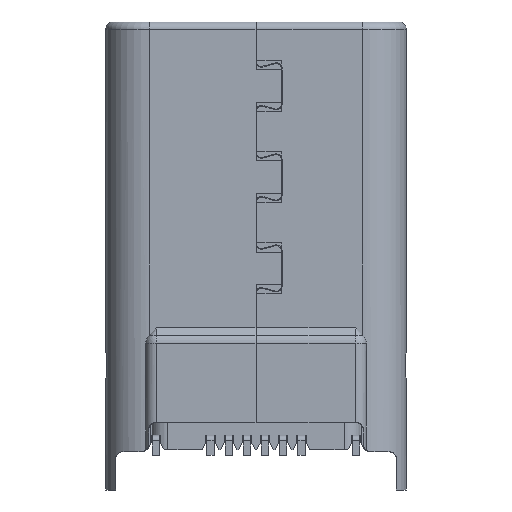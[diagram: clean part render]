
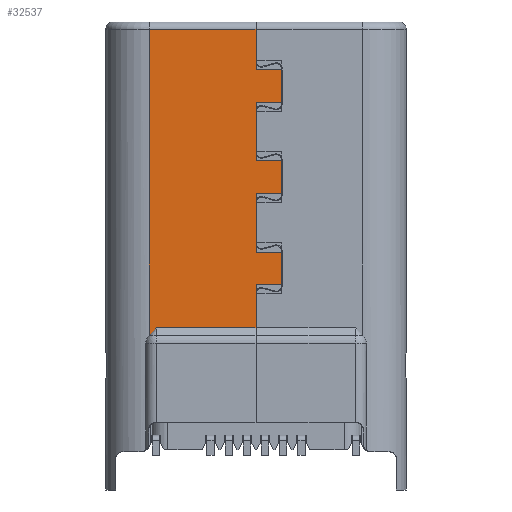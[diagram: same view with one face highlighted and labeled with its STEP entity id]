
A CAD part, front view. The second image highlights one B-rep face of the part: STEP entity #32537.
In plain terms, the highlighted planar face has unit normal (0, -1, 0).
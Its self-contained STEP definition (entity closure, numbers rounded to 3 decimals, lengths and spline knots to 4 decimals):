
#5029=DIRECTION('',(0.,0.,-1.));
#5030=VECTOR('',#5029,0.9);
#5031=CARTESIAN_POINT('',(0.7,-1.2,9.4346));
#5032=LINE('',#5031,#5030);
#5071=DIRECTION('',(0.,0.,-1.));
#5072=VECTOR('',#5071,1.6);
#5073=CARTESIAN_POINT('',(0.,-1.2,8.5346));
#5074=LINE('',#5073,#5072);
#5125=DIRECTION('',(0.,0.,-1.));
#5126=VECTOR('',#5125,0.9);
#5127=CARTESIAN_POINT('',(0.7,-1.2,6.9346));
#5128=LINE('',#5127,#5126);
#5163=DIRECTION('',(0.,0.,-1.));
#5164=VECTOR('',#5163,1.6);
#5165=CARTESIAN_POINT('',(0.,-1.2,6.0346));
#5166=LINE('',#5165,#5164);
#5217=DIRECTION('',(0.,0.,-1.));
#5218=VECTOR('',#5217,0.9);
#5219=CARTESIAN_POINT('',(0.7,-1.2,4.4346));
#5220=LINE('',#5219,#5218);
#5285=DIRECTION('',(0.,0.,-1.));
#5286=VECTOR('',#5285,1.1154);
#5287=CARTESIAN_POINT('',(0.,-1.2,10.55));
#5288=LINE('',#5287,#5286);
#5289=DIRECTION('',(0.,0.,-1.));
#5290=VECTOR('',#5289,1.1846);
#5291=CARTESIAN_POINT('',(0.,-1.2,3.5346));
#5292=LINE('',#5291,#5290);
#5293=DIRECTION('',(-0.707,0.,-0.707));
#5294=VECTOR('',#5293,0.2828);
#5295=CARTESIAN_POINT('',(-2.725,-1.2,2.35));
#5296=LINE('',#5295,#5294);
#5311=DIRECTION('',(1.,0.,0.));
#5312=VECTOR('',#5311,0.7);
#5313=CARTESIAN_POINT('',(0.,-1.2,9.4346));
#5314=LINE('',#5313,#5312);
#5323=DIRECTION('',(-1.,0.,0.));
#5324=VECTOR('',#5323,2.925);
#5325=CARTESIAN_POINT('',(0.,-1.2,10.55));
#5326=LINE('',#5325,#5324);
#5566=DIRECTION('',(0.,0.,-1.));
#5567=VECTOR('',#5566,8.4);
#5568=CARTESIAN_POINT('',(-2.925,-1.2,10.55));
#5569=LINE('',#5568,#5567);
#5976=DIRECTION('',(1.,0.,0.));
#5977=VECTOR('',#5976,2.725);
#5978=CARTESIAN_POINT('',(-2.725,-1.2,2.35));
#5979=LINE('',#5978,#5977);
#19253=DIRECTION('',(-1.,0.,0.));
#19254=VECTOR('',#19253,0.7);
#19255=CARTESIAN_POINT('',(0.7,-1.2,8.5346));
#19256=LINE('',#19255,#19254);
#19269=DIRECTION('',(1.,0.,0.));
#19270=VECTOR('',#19269,0.7);
#19271=CARTESIAN_POINT('',(0.,-1.2,6.9346));
#19272=LINE('',#19271,#19270);
#19285=DIRECTION('',(-1.,0.,0.));
#19286=VECTOR('',#19285,0.7);
#19287=CARTESIAN_POINT('',(0.7,-1.2,6.0346));
#19288=LINE('',#19287,#19286);
#19301=DIRECTION('',(1.,0.,0.));
#19302=VECTOR('',#19301,0.7);
#19303=CARTESIAN_POINT('',(0.,-1.2,4.4346));
#19304=LINE('',#19303,#19302);
#19317=DIRECTION('',(-1.,0.,0.));
#19318=VECTOR('',#19317,0.7);
#19319=CARTESIAN_POINT('',(0.7,-1.2,3.5346));
#19320=LINE('',#19319,#19318);
#23079=CARTESIAN_POINT('',(-2.925,-1.2,10.55));
#23080=VERTEX_POINT('',#23079);
#23085=CARTESIAN_POINT('',(0.,-1.2,10.55));
#23086=VERTEX_POINT('',#23085);
#23093=CARTESIAN_POINT('',(0.,-1.2,9.4346));
#23094=VERTEX_POINT('',#23093);
#23419=CARTESIAN_POINT('',(-2.925,-1.2,2.15));
#23420=VERTEX_POINT('',#23419);
#23498=CARTESIAN_POINT('',(0.,-1.2,3.5346));
#23499=CARTESIAN_POINT('',(0.,-1.2,2.35));
#23500=VERTEX_POINT('',#23498);
#23501=VERTEX_POINT('',#23499);
#23516=CARTESIAN_POINT('',(0.7,-1.2,9.4346));
#23517=VERTEX_POINT('',#23516);
#23518=CARTESIAN_POINT('',(0.7,-1.2,8.5346));
#23519=VERTEX_POINT('',#23518);
#23520=CARTESIAN_POINT('',(0.,-1.2,8.5346));
#23521=VERTEX_POINT('',#23520);
#23522=CARTESIAN_POINT('',(0.,-1.2,6.9346));
#23523=VERTEX_POINT('',#23522);
#23524=CARTESIAN_POINT('',(0.7,-1.2,6.9346));
#23525=VERTEX_POINT('',#23524);
#23526=CARTESIAN_POINT('',(0.7,-1.2,6.0346));
#23527=VERTEX_POINT('',#23526);
#23528=CARTESIAN_POINT('',(0.,-1.2,6.0346));
#23529=VERTEX_POINT('',#23528);
#23530=CARTESIAN_POINT('',(0.,-1.2,4.4346));
#23531=VERTEX_POINT('',#23530);
#23532=CARTESIAN_POINT('',(0.7,-1.2,4.4346));
#23533=VERTEX_POINT('',#23532);
#23534=CARTESIAN_POINT('',(0.7,-1.2,3.5346));
#23535=VERTEX_POINT('',#23534);
#23536=CARTESIAN_POINT('',(-2.725,-1.2,2.35));
#23537=VERTEX_POINT('',#23536);
#32502=CARTESIAN_POINT('',(-1.1125,-1.2,6.35));
#32503=DIRECTION('',(0.,1.,0.));
#32504=DIRECTION('',(1.,0.,0.));
#32505=AXIS2_PLACEMENT_3D('',#32502,#32503,#32504);
#32506=PLANE('',#32505);
#32508=ORIENTED_EDGE('',*,*,#32507,.T.);
#32510=ORIENTED_EDGE('',*,*,#32509,.T.);
#32511=ORIENTED_EDGE('',*,*,#31908,.T.);
#32513=ORIENTED_EDGE('',*,*,#32512,.T.);
#32514=ORIENTED_EDGE('',*,*,#32019,.T.);
#32516=ORIENTED_EDGE('',*,*,#32515,.T.);
#32517=ORIENTED_EDGE('',*,*,#32136,.T.);
#32519=ORIENTED_EDGE('',*,*,#32518,.T.);
#32520=ORIENTED_EDGE('',*,*,#32247,.T.);
#32522=ORIENTED_EDGE('',*,*,#32521,.T.);
#32523=ORIENTED_EDGE('',*,*,#32364,.T.);
#32525=ORIENTED_EDGE('',*,*,#32524,.T.);
#32526=ORIENTED_EDGE('',*,*,#32469,.T.);
#32528=ORIENTED_EDGE('',*,*,#32527,.F.);
#32530=ORIENTED_EDGE('',*,*,#32529,.T.);
#32532=ORIENTED_EDGE('',*,*,#32531,.F.);
#32534=ORIENTED_EDGE('',*,*,#32533,.F.);
#32535=EDGE_LOOP('',(#32508,#32510,#32511,#32513,#32514,#32516,#32517,#32519,
#32520,#32522,#32523,#32525,#32526,#32528,#32530,#32532,#32534));
#32536=FACE_OUTER_BOUND('',#32535,.F.);
#31908=EDGE_CURVE('',#23517,#23519,#5032,.T.);
#32019=EDGE_CURVE('',#23521,#23523,#5074,.T.);
#32136=EDGE_CURVE('',#23525,#23527,#5128,.T.);
#32247=EDGE_CURVE('',#23529,#23531,#5166,.T.);
#32364=EDGE_CURVE('',#23533,#23535,#5220,.T.);
#32469=EDGE_CURVE('',#23500,#23501,#5292,.T.);
#32507=EDGE_CURVE('',#23086,#23094,#5288,.T.);
#32509=EDGE_CURVE('',#23094,#23517,#5314,.T.);
#32512=EDGE_CURVE('',#23519,#23521,#19256,.T.);
#32515=EDGE_CURVE('',#23523,#23525,#19272,.T.);
#32518=EDGE_CURVE('',#23527,#23529,#19288,.T.);
#32521=EDGE_CURVE('',#23531,#23533,#19304,.T.);
#32524=EDGE_CURVE('',#23535,#23500,#19320,.T.);
#32527=EDGE_CURVE('',#23537,#23501,#5979,.T.);
#32529=EDGE_CURVE('',#23537,#23420,#5296,.T.);
#32531=EDGE_CURVE('',#23080,#23420,#5569,.T.);
#32533=EDGE_CURVE('',#23086,#23080,#5326,.T.);
#32537=ADVANCED_FACE('',(#32536),#32506,.F.);
